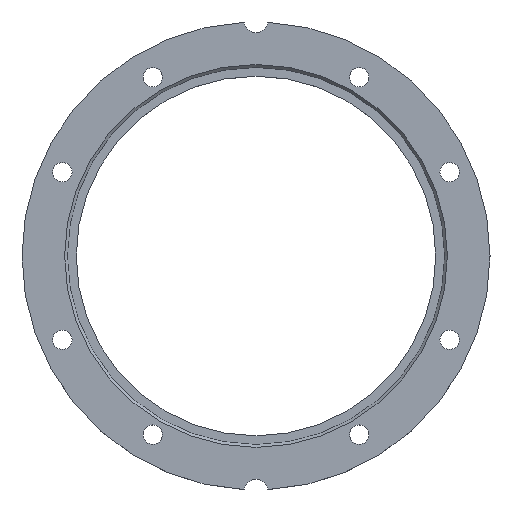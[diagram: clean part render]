
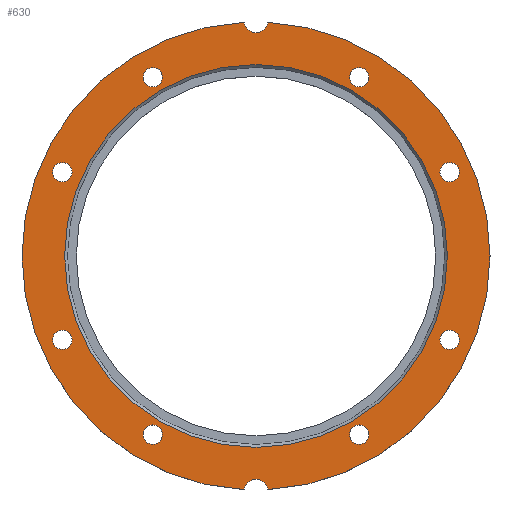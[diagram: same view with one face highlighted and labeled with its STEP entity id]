
A CAD part, top view. The second image highlights one B-rep face of the part: STEP entity #630.
In plain terms, the highlighted planar face has unit normal (0, 0, 1).
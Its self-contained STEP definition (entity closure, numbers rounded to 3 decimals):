
#126=PLANE('',#690);
#180=CIRCLE('',#674,1.75);
#182=CIRCLE('',#677,1.75);
#194=CIRCLE('',#691,1.75);
#195=CIRCLE('',#692,1.75);
#196=CIRCLE('',#693,2.15);
#197=CIRCLE('',#694,42.3);
#198=CIRCLE('',#695,2.15);
#199=CIRCLE('',#696,1.75);
#200=CIRCLE('',#697,1.75);
#201=CIRCLE('',#698,1.75);
#202=CIRCLE('',#699,1.75);
#203=CIRCLE('',#700,34.6);
#231=VERTEX_POINT('',#811);
#233=VERTEX_POINT('',#816);
#246=VERTEX_POINT('',#843);
#247=VERTEX_POINT('',#845);
#248=VERTEX_POINT('',#847);
#249=VERTEX_POINT('',#848);
#250=VERTEX_POINT('',#850);
#251=VERTEX_POINT('',#852);
#252=VERTEX_POINT('',#854);
#253=VERTEX_POINT('',#856);
#254=VERTEX_POINT('',#858);
#255=VERTEX_POINT('',#860);
#256=VERTEX_POINT('',#862);
#304=EDGE_CURVE('',#231,#231,#180,.T.);
#306=EDGE_CURVE('',#233,#233,#182,.T.);
#319=EDGE_CURVE('',#246,#246,#194,.T.);
#320=EDGE_CURVE('',#247,#247,#195,.T.);
#321=EDGE_CURVE('',#248,#249,#196,.T.);
#322=EDGE_CURVE('',#250,#249,#197,.T.);
#323=EDGE_CURVE('',#250,#251,#198,.T.);
#324=EDGE_CURVE('',#248,#251,#197,.T.);
#325=EDGE_CURVE('',#252,#252,#199,.T.);
#326=EDGE_CURVE('',#253,#253,#200,.T.);
#327=EDGE_CURVE('',#254,#254,#201,.T.);
#328=EDGE_CURVE('',#255,#255,#202,.T.);
#329=EDGE_CURVE('',#256,#256,#203,.T.);
#426=ORIENTED_EDGE('',*,*,#319,.T.);
#427=ORIENTED_EDGE('',*,*,#320,.T.);
#428=ORIENTED_EDGE('',*,*,#321,.T.);
#429=ORIENTED_EDGE('',*,*,#322,.F.);
#430=ORIENTED_EDGE('',*,*,#323,.T.);
#431=ORIENTED_EDGE('',*,*,#324,.F.);
#432=ORIENTED_EDGE('',*,*,#325,.T.);
#433=ORIENTED_EDGE('',*,*,#326,.T.);
#434=ORIENTED_EDGE('',*,*,#327,.T.);
#435=ORIENTED_EDGE('',*,*,#328,.T.);
#436=ORIENTED_EDGE('',*,*,#329,.F.);
#437=ORIENTED_EDGE('',*,*,#306,.T.);
#438=ORIENTED_EDGE('',*,*,#304,.T.);
#509=EDGE_LOOP('',(#426));
#510=EDGE_LOOP('',(#427));
#511=EDGE_LOOP('',(#428,#429,#430,#431));
#512=EDGE_LOOP('',(#432));
#513=EDGE_LOOP('',(#433));
#514=EDGE_LOOP('',(#434));
#515=EDGE_LOOP('',(#435));
#516=EDGE_LOOP('',(#436));
#517=EDGE_LOOP('',(#437));
#518=EDGE_LOOP('',(#438));
#577=FACE_BOUND('',#509,.T.);
#578=FACE_BOUND('',#510,.T.);
#579=FACE_BOUND('',#511,.T.);
#580=FACE_BOUND('',#512,.T.);
#581=FACE_BOUND('',#513,.T.);
#582=FACE_BOUND('',#514,.T.);
#583=FACE_BOUND('',#515,.T.);
#584=FACE_BOUND('',#516,.T.);
#585=FACE_BOUND('',#517,.T.);
#586=FACE_BOUND('',#518,.T.);
#630=ADVANCED_FACE('',(#577,#578,#579,#580,#581,#582,#583,#584,#585,#586),
#126,.T.);
#674=AXIS2_PLACEMENT_3D('',#810,#952,#953);
#677=AXIS2_PLACEMENT_3D('',#815,#958,#959);
#690=AXIS2_PLACEMENT_3D('',#841,#983,$);
#691=AXIS2_PLACEMENT_3D('',#842,#984,#985);
#692=AXIS2_PLACEMENT_3D('',#844,#986,#987);
#693=AXIS2_PLACEMENT_3D('',#846,#988,#989);
#694=AXIS2_PLACEMENT_3D('',#849,#990,#991);
#695=AXIS2_PLACEMENT_3D('',#851,#992,#993);
#696=AXIS2_PLACEMENT_3D('',#853,#994,#995);
#697=AXIS2_PLACEMENT_3D('',#855,#996,#997);
#698=AXIS2_PLACEMENT_3D('',#857,#998,#999);
#699=AXIS2_PLACEMENT_3D('',#859,#1000,#1001);
#700=AXIS2_PLACEMENT_3D('',#861,#1002,#1003);
#810=CARTESIAN_POINT('',(18.65,-32.303,9.5));
#811=CARTESIAN_POINT('',(16.9,-32.303,9.5));
#815=CARTESIAN_POINT('',(-18.65,-32.303,9.5));
#816=CARTESIAN_POINT('',(-20.4,-32.303,9.5));
#841=CARTESIAN_POINT('',(0.,0.,9.5));
#842=CARTESIAN_POINT('',(18.65,32.303,9.5));
#843=CARTESIAN_POINT('',(16.9,32.303,9.5));
#844=CARTESIAN_POINT('',(-18.65,32.303,9.5));
#845=CARTESIAN_POINT('',(-20.4,32.303,9.5));
#846=CARTESIAN_POINT('',(0.,-42.5,9.5));
#847=CARTESIAN_POINT('',(-2.135,-42.246,9.5));
#848=CARTESIAN_POINT('',(2.135,-42.246,9.5));
#849=CARTESIAN_POINT('',(0.,0.,9.5));
#850=CARTESIAN_POINT('',(2.135,42.246,9.5));
#851=CARTESIAN_POINT('',(0.,42.5,9.5));
#852=CARTESIAN_POINT('',(-2.135,42.246,9.5));
#853=CARTESIAN_POINT('',(35.,15.155,9.5));
#854=CARTESIAN_POINT('',(33.25,15.155,9.5));
#855=CARTESIAN_POINT('',(35.,-15.155,9.5));
#856=CARTESIAN_POINT('',(33.25,-15.155,9.5));
#857=CARTESIAN_POINT('',(-35.,15.155,9.5));
#858=CARTESIAN_POINT('',(-33.25,15.155,9.5));
#859=CARTESIAN_POINT('',(-35.,-15.155,9.5));
#860=CARTESIAN_POINT('',(-33.25,-15.155,9.5));
#861=CARTESIAN_POINT('',(0.,0.,9.5));
#862=CARTESIAN_POINT('',(34.6,0.,9.5));
#952=DIRECTION('',(0.,0.,-1.));
#953=DIRECTION('',(1.75,0.,0.));
#958=DIRECTION('',(0.,0.,-1.));
#959=DIRECTION('',(1.75,0.,0.));
#983=DIRECTION('',(0.,0.,1.));
#984=DIRECTION('',(0.,0.,-1.));
#985=DIRECTION('',(1.75,0.,0.));
#986=DIRECTION('',(0.,0.,-1.));
#987=DIRECTION('',(1.75,0.,0.));
#988=DIRECTION('',(0.,0.,-1.));
#989=DIRECTION('',(-2.15,0.,0.));
#990=DIRECTION('',(0.,0.,-1.));
#991=DIRECTION('',(42.3,0.,0.));
#992=DIRECTION('',(0.,0.,-1.));
#993=DIRECTION('',(2.15,0.,0.));
#994=DIRECTION('',(0.,0.,-1.));
#995=DIRECTION('',(1.75,0.,0.));
#996=DIRECTION('',(0.,0.,-1.));
#997=DIRECTION('',(1.75,0.,0.));
#998=DIRECTION('',(0.,0.,-1.));
#999=DIRECTION('',(-1.75,0.,0.));
#1000=DIRECTION('',(0.,0.,-1.));
#1001=DIRECTION('',(-1.75,0.,0.));
#1002=DIRECTION('',(0.,0.,1.));
#1003=DIRECTION('',(-34.6,0.,0.));
